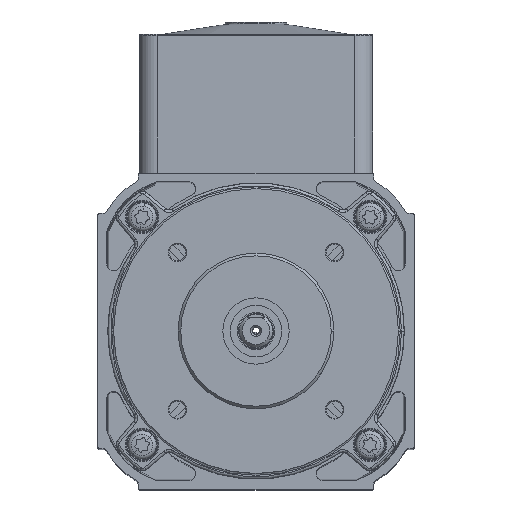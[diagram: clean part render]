
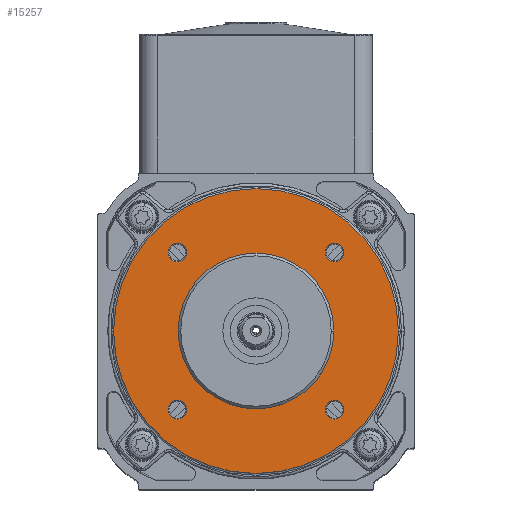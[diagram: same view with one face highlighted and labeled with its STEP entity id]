
A CAD part, top view. The second image highlights one B-rep face of the part: STEP entity #15257.
In plain terms, the highlighted planar face has unit normal (0, 0, 1).
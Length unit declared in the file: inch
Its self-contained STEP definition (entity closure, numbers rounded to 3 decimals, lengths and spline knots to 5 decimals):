
#1156 = DIRECTION ( 'NONE',  ( -1., 0., 0. ) ) ;
#1157 = DIRECTION ( 'NONE',  ( 0., 0., -1. ) ) ;
#1158 = CARTESIAN_POINT ( 'NONE',  ( 0., 0., 0.335 ) ) ;
#1159 = AXIS2_PLACEMENT_3D ( 'NONE', #1158, #1157, #1156 ) ;
#1160 = CIRCLE ( 'NONE', #1159, 1.60087 ) ;
#1274 = ORIENTED_EDGE ( 'NONE', *, *, #1283, .F. ) ;
#1283 = EDGE_CURVE ( 'NONE', #14484, #14487, #1160, .T. ) ;
#1349 = EDGE_LOOP ( 'NONE', ( #15262, #1369 ) ) ;
#1352 = EDGE_LOOP ( 'NONE', ( #15236, #1353 ) ) ;
#1353 = ORIENTED_EDGE ( 'NONE', *, *, #14564, .F. ) ;
#1355 = ORIENTED_EDGE ( 'NONE', *, *, #14507, .F. ) ;
#1356 = ORIENTED_EDGE ( 'NONE', *, *, #14529, .F. ) ;
#1357 = ORIENTED_EDGE ( 'NONE', *, *, #15160, .F. ) ;
#1368 = ORIENTED_EDGE ( 'NONE', *, *, #14486, .F. ) ;
#1369 = ORIENTED_EDGE ( 'NONE', *, *, #4162, .F. ) ;
#4151 = EDGE_CURVE ( 'NONE', #14576, #14565, #39026, .T. ) ;
#4162 = EDGE_CURVE ( 'NONE', #14548, #14547, #39009, .T. ) ;
#8937 = CARTESIAN_POINT ( 'NONE',  ( 0.98888, -0.88388, 0.335 ) ) ;
#8972 = CARTESIAN_POINT ( 'NONE',  ( 0.98888, 0.88388, 0.335 ) ) ;
#8973 = DIRECTION ( 'NONE',  ( 1., 0., 0. ) ) ;
#8974 = DIRECTION ( 'NONE',  ( 0., 0., 1. ) ) ;
#8975 = CARTESIAN_POINT ( 'NONE',  ( 0.88388, 0.88388, 0.335 ) ) ;
#8976 = AXIS2_PLACEMENT_3D ( 'NONE', #8975, #8974, #8973 ) ;
#8977 = CIRCLE ( 'NONE', #8976, 0.105 ) ;
#9022 = CARTESIAN_POINT ( 'NONE',  ( 0.77888, 0.88388, 0.335 ) ) ;
#9023 = CARTESIAN_POINT ( 'NONE',  ( -1.60087, 0., 0.335 ) ) ;
#9024 = DIRECTION ( 'NONE',  ( -1., 0., 0. ) ) ;
#9025 = DIRECTION ( 'NONE',  ( 0., 0., -1. ) ) ;
#9026 = CARTESIAN_POINT ( 'NONE',  ( 0., 0., 0.335 ) ) ;
#9027 = AXIS2_PLACEMENT_3D ( 'NONE', #9026, #9025, #9024 ) ;
#9028 = CIRCLE ( 'NONE', #9027, 1.60087 ) ;
#9029 = CARTESIAN_POINT ( 'NONE',  ( 1.60087, 0., 0.335 ) ) ;
#9037 = CARTESIAN_POINT ( 'NONE',  ( -0.98888, -0.88388, 0.335 ) ) ;
#9039 = CARTESIAN_POINT ( 'NONE',  ( -0.77888, -0.88388, 0.335 ) ) ;
#9044 = DIRECTION ( 'NONE',  ( 1., 0., 0. ) ) ;
#9045 = DIRECTION ( 'NONE',  ( 0., 0., 1. ) ) ;
#9046 = AXIS2_PLACEMENT_3D ( 'NONE', #9051, #9045, #9044 ) ;
#9047 = CIRCLE ( 'NONE', #9046, 0.105 ) ;
#9051 = CARTESIAN_POINT ( 'NONE',  ( -0.88388, -0.88388, 0.335 ) ) ;
#9069 = CARTESIAN_POINT ( 'NONE',  ( 0.77888, -0.88388, 0.335 ) ) ;
#9099 = DIRECTION ( 'NONE',  ( -1., 0., 0. ) ) ;
#9100 = DIRECTION ( 'NONE',  ( 0., 0., 1. ) ) ;
#9101 = CARTESIAN_POINT ( 'NONE',  ( 0., 0., 0.335 ) ) ;
#9102 = AXIS2_PLACEMENT_3D ( 'NONE', #9101, #9100, #9099 ) ;
#9103 = CIRCLE ( 'NONE', #9102, 0.875 ) ;
#9123 = DIRECTION ( 'NONE',  ( 1., 0., 0. ) ) ;
#9124 = DIRECTION ( 'NONE',  ( 0., 0., 1. ) ) ;
#9125 = CARTESIAN_POINT ( 'NONE',  ( 0.88388, -0.88388, 0.335 ) ) ;
#9126 = AXIS2_PLACEMENT_3D ( 'NONE', #9125, #9124, #9123 ) ;
#9127 = CIRCLE ( 'NONE', #9126, 0.105 ) ;
#9159 = CARTESIAN_POINT ( 'NONE',  ( -0.875, 0., 0.335 ) ) ;
#9160 = CARTESIAN_POINT ( 'NONE',  ( 0.875, 0., 0.335 ) ) ;
#9162 = CARTESIAN_POINT ( 'NONE',  ( -0.77888, 0.88388, 0.335 ) ) ;
#9184 = CARTESIAN_POINT ( 'NONE',  ( -0.98888, 0.88388, 0.335 ) ) ;
#9185 = DIRECTION ( 'NONE',  ( 1., 0., 0. ) ) ;
#9186 = DIRECTION ( 'NONE',  ( 0., 0., 1. ) ) ;
#9187 = CARTESIAN_POINT ( 'NONE',  ( -0.88388, 0.88388, 0.335 ) ) ;
#9188 = AXIS2_PLACEMENT_3D ( 'NONE', #9187, #9186, #9185 ) ;
#9189 = CIRCLE ( 'NONE', #9188, 0.105 ) ;
#10385 = DIRECTION ( 'NONE',  ( 1., 0., 0. ) ) ;
#10386 = DIRECTION ( 'NONE',  ( 0., 0., 1. ) ) ;
#10387 = CARTESIAN_POINT ( 'NONE',  ( 0.88388, 0.88388, 0.335 ) ) ;
#10388 = AXIS2_PLACEMENT_3D ( 'NONE', #10387, #10386, #10385 ) ;
#10389 = CIRCLE ( 'NONE', #10388, 0.105 ) ;
#10390 = CARTESIAN_POINT ( 'NONE',  ( 0.88388, -0.88388, 0.335 ) ) ;
#10442 = DIRECTION ( 'NONE',  ( 1., 0., 0. ) ) ;
#10443 = DIRECTION ( 'NONE',  ( 0., 0., 1. ) ) ;
#10444 = AXIS2_PLACEMENT_3D ( 'NONE', #10390, #10443, #10442 ) ;
#10445 = CIRCLE ( 'NONE', #10444, 0.105 ) ;
#10580 = DIRECTION ( 'NONE',  ( -1., 0., 0. ) ) ;
#10582 = DIRECTION ( 'NONE',  ( 0., 0., -1. ) ) ;
#10584 = CARTESIAN_POINT ( 'NONE',  ( 0., 0., 0.335 ) ) ;
#10585 = AXIS2_PLACEMENT_3D ( 'NONE', #10584, #10582, #10580 ) ;
#10587 = PLANE ( 'NONE',  #10585 ) ;
#10591 = FACE_OUTER_BOUND ( 'NONE', #15247, .T. ) ;
#10593 = FACE_BOUND ( 'NONE', #1349, .T. ) ;
#10594 = FACE_BOUND ( 'NONE', #1352, .T. ) ;
#10596 = FACE_BOUND ( 'NONE', #15243, .T. ) ;
#10598 = FACE_BOUND ( 'NONE', #15306, .T. ) ;
#10600 = FACE_BOUND ( 'NONE', #15263, .T. ) ;
#14455 = VERTEX_POINT ( 'NONE', #8937 ) ;
#14478 = EDGE_CURVE ( 'NONE', #14488, #14479, #8977, .T. ) ;
#14479 = VERTEX_POINT ( 'NONE', #8972 ) ;
#14484 = VERTEX_POINT ( 'NONE', #9029 ) ;
#14486 = EDGE_CURVE ( 'NONE', #14487, #14484, #9028, .T. ) ;
#14487 = VERTEX_POINT ( 'NONE', #9023 ) ;
#14488 = VERTEX_POINT ( 'NONE', #9022 ) ;
#14507 = EDGE_CURVE ( 'NONE', #14514, #14510, #9047, .T. ) ;
#14510 = VERTEX_POINT ( 'NONE', #9039 ) ;
#14514 = VERTEX_POINT ( 'NONE', #9037 ) ;
#14522 = VERTEX_POINT ( 'NONE', #9069 ) ;
#14529 = EDGE_CURVE ( 'NONE', #14522, #14455, #9127, .T. ) ;
#14545 = EDGE_CURVE ( 'NONE', #14547, #14548, #9103, .T. ) ;
#14547 = VERTEX_POINT ( 'NONE', #9160 ) ;
#14548 = VERTEX_POINT ( 'NONE', #9159 ) ;
#14564 = EDGE_CURVE ( 'NONE', #14565, #14576, #9189, .T. ) ;
#14565 = VERTEX_POINT ( 'NONE', #9184 ) ;
#14576 = VERTEX_POINT ( 'NONE', #9162 ) ;
#15159 = EDGE_CURVE ( 'NONE', #14479, #14488, #10389, .T. ) ;
#15160 = EDGE_CURVE ( 'NONE', #14455, #14522, #10445, .T. ) ;
#15236 = ORIENTED_EDGE ( 'NONE', *, *, #4151, .F. ) ;
#15243 = EDGE_LOOP ( 'NONE', ( #15284, #1355 ) ) ;
#15247 = EDGE_LOOP ( 'NONE', ( #1368, #1274 ) ) ;
#15257 = ADVANCED_FACE ( 'NONE', ( #10600, #10598, #10596, #10594, #10593, #10591 ), #10587, .F. ) ;
#15262 = ORIENTED_EDGE ( 'NONE', *, *, #14545, .F. ) ;
#15263 = EDGE_LOOP ( 'NONE', ( #15302, #15303 ) ) ;
#15284 = ORIENTED_EDGE ( 'NONE', *, *, #33895, .F. ) ;
#15302 = ORIENTED_EDGE ( 'NONE', *, *, #15159, .F. ) ;
#15303 = ORIENTED_EDGE ( 'NONE', *, *, #14478, .F. ) ;
#15306 = EDGE_LOOP ( 'NONE', ( #1357, #1356 ) ) ;
#26846 = DIRECTION ( 'NONE',  ( 0., 0., 1. ) ) ;
#26847 = AXIS2_PLACEMENT_3D ( 'NONE', #26853, #26846, #26911 ) ;
#26848 = CIRCLE ( 'NONE', #26847, 0.105 ) ;
#26853 = CARTESIAN_POINT ( 'NONE',  ( -0.88388, -0.88388, 0.335 ) ) ;
#26911 = DIRECTION ( 'NONE',  ( 1., 0., 0. ) ) ;
#33895 = EDGE_CURVE ( 'NONE', #14510, #14514, #26848, .T. ) ;
#39009 = CIRCLE ( 'NONE', #39069, 0.875 ) ;
#39023 = DIRECTION ( 'NONE',  ( 1., 0., 0. ) ) ;
#39024 = DIRECTION ( 'NONE',  ( 0., 0., 1. ) ) ;
#39025 = AXIS2_PLACEMENT_3D ( 'NONE', #39031, #39024, #39023 ) ;
#39026 = CIRCLE ( 'NONE', #39025, 0.105 ) ;
#39031 = CARTESIAN_POINT ( 'NONE',  ( -0.88388, 0.88388, 0.335 ) ) ;
#39066 = DIRECTION ( 'NONE',  ( -1., 0., 0. ) ) ;
#39067 = DIRECTION ( 'NONE',  ( 0., 0., 1. ) ) ;
#39068 = CARTESIAN_POINT ( 'NONE',  ( 0., 0., 0.335 ) ) ;
#39069 = AXIS2_PLACEMENT_3D ( 'NONE', #39068, #39067, #39066 ) ;
